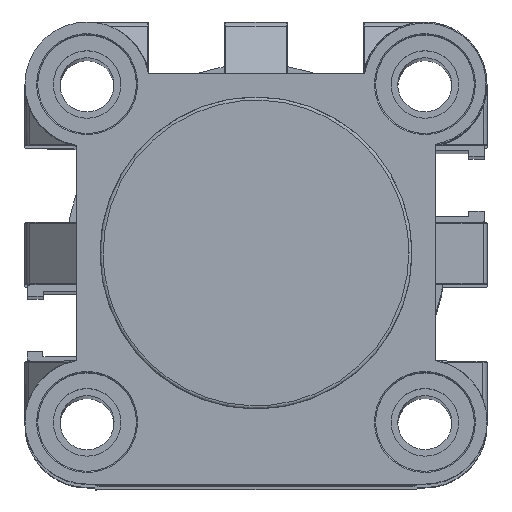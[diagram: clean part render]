
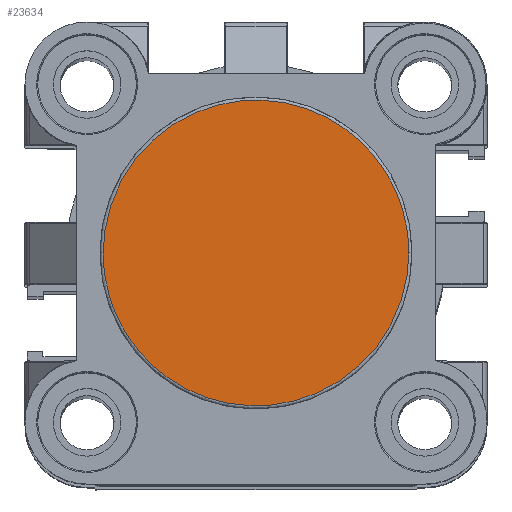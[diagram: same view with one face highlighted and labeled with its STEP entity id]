
A CAD part, top view. The second image highlights one B-rep face of the part: STEP entity #23634.
In plain terms, the highlighted planar face has unit normal (0, 0, 1).
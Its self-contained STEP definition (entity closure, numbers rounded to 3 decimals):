
#1344 = EDGE_CURVE ( 'NONE', #2305, #9915, #8812, .T. ) ;
#1769 = CARTESIAN_POINT ( 'NONE',  ( 2.55, -17.25, 30. ) ) ;
#1826 = AXIS2_PLACEMENT_3D ( 'NONE', #18272, #4519, #20653 ) ;
#1942 = CARTESIAN_POINT ( 'NONE',  ( 2.55, -46.65, 30. ) ) ;
#2305 = VERTEX_POINT ( 'NONE', #19050 ) ;
#3715 = EDGE_LOOP ( 'NONE', ( #21624, #10593 ) ) ;
#4043 = CARTESIAN_POINT ( 'NONE',  ( 2.55, -17.25, 30. ) ) ;
#4177 = CARTESIAN_POINT ( 'NONE',  ( 31.95, 12.15, 30. ) ) ;
#4215 = CARTESIAN_POINT ( 'NONE',  ( 2.55, 12.15, 30. ) ) ;
#4242 = CARTESIAN_POINT ( 'NONE',  ( 31.95, -17.25, 30. ) ) ;
#4519 = DIRECTION ( 'NONE',  ( 0., 0., 1. ) ) ;
#5117 = CARTESIAN_POINT ( 'NONE',  ( 31.95, -46.65, 30. ) ) ;
#5201 = CARTESIAN_POINT ( 'NONE',  ( 31.95, -17.25, 30. ) ) ;
#8812 =( BOUNDED_CURVE ( )  B_SPLINE_CURVE ( 3, ( #4043, #4215, #4177, #4242 ),
 .UNSPECIFIED., .F., .T. ) 
 B_SPLINE_CURVE_WITH_KNOTS ( ( 4, 4 ),
 ( 0., 1. ),
 .UNSPECIFIED. ) 
 CURVE ( )  GEOMETRIC_REPRESENTATION_ITEM ( )  RATIONAL_B_SPLINE_CURVE ( ( 0.957, 0.319, 0.319, 0.957 ) ) 
 REPRESENTATION_ITEM ( '' )  );
#8917 = EDGE_CURVE ( 'NONE', #9915, #2305, #21039, .T. ) ;
#9915 = VERTEX_POINT ( 'NONE', #30340 ) ;
#10593 = ORIENTED_EDGE ( 'NONE', *, *, #8917, .F. ) ;
#13632 = FACE_OUTER_BOUND ( 'NONE', #3715, .T. ) ;
#15930 = PLANE ( 'NONE',  #1826 ) ;
#18272 = CARTESIAN_POINT ( 'NONE',  ( 2.374, -32.126, 30. ) ) ;
#19050 = CARTESIAN_POINT ( 'NONE',  ( 2.55, -17.25, 30. ) ) ;
#20653 = DIRECTION ( 'NONE',  ( 1., 0., 0. ) ) ;
#21039 =( BOUNDED_CURVE ( )  B_SPLINE_CURVE ( 3, ( #5201, #5117, #1942, #1769 ),
 .UNSPECIFIED., .F., .T. ) 
 B_SPLINE_CURVE_WITH_KNOTS ( ( 4, 4 ),
 ( 0., 1. ),
 .UNSPECIFIED. ) 
 CURVE ( )  GEOMETRIC_REPRESENTATION_ITEM ( )  RATIONAL_B_SPLINE_CURVE ( ( 0.957, 0.319, 0.319, 0.957 ) ) 
 REPRESENTATION_ITEM ( '' )  );
#21624 = ORIENTED_EDGE ( 'NONE', *, *, #1344, .F. ) ;
#23634 = ADVANCED_FACE ( 'NONE', ( #13632 ), #15930, .T. ) ;
#30340 = CARTESIAN_POINT ( 'NONE',  ( 31.95, -17.25, 30. ) ) ;
